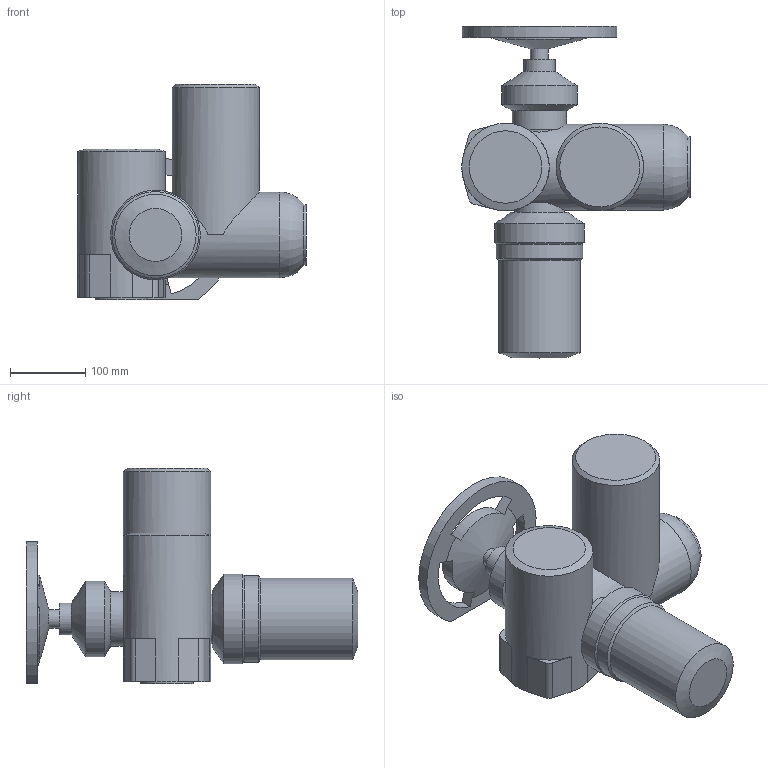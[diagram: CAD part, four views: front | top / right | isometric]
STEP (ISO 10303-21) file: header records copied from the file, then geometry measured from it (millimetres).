
FILE_DESCRIPTION(('STEP AP203'), '1');
FILE_NAME('Ýëåêòðîïðèâîä ÌÒ903.À07 áåç áëîêà óïðàâëåíèÿ', '', ('UNSPECIFIED'), ('UNSPECIFIED'), 'ASCON STEP Converter 1.6', 'ASCON Math Kernel', '');
FILE_SCHEMA(('CONFIG_CONTROL_DESIGN'));
Length unit declared in the file: millimetre
Bounding box: 303 x 440 x 286 mm (x, y, z)
Volume: 8330162.4 mm3; surface area: 395177.4 mm2
Topology: 1 solids, 1 shells, 84 faces, 212 edges, 136 vertices
Faces by surface type: plane 41, cylinder 33, cone 9, torus 1
Full cylindrical faces by diameter (mm): 8.5 x4, 24 x1, 42 x1, 66 x1, 70 x1, 72 x1, 80 x1, 100 x1, 108 x1, 114 x1, 115 x1, 116 x2, 119 x1
Entity records: 4180 total; most frequent: CARTESIAN_POINT 1542, DIRECTION 402, ORIENTED_EDGE 368, EDGE_CURVE 184, AXIS2_PLACEMENT_3D 160, VERTEX_POINT 136, EDGE_LOOP 124, COLOUR_RGB 85
